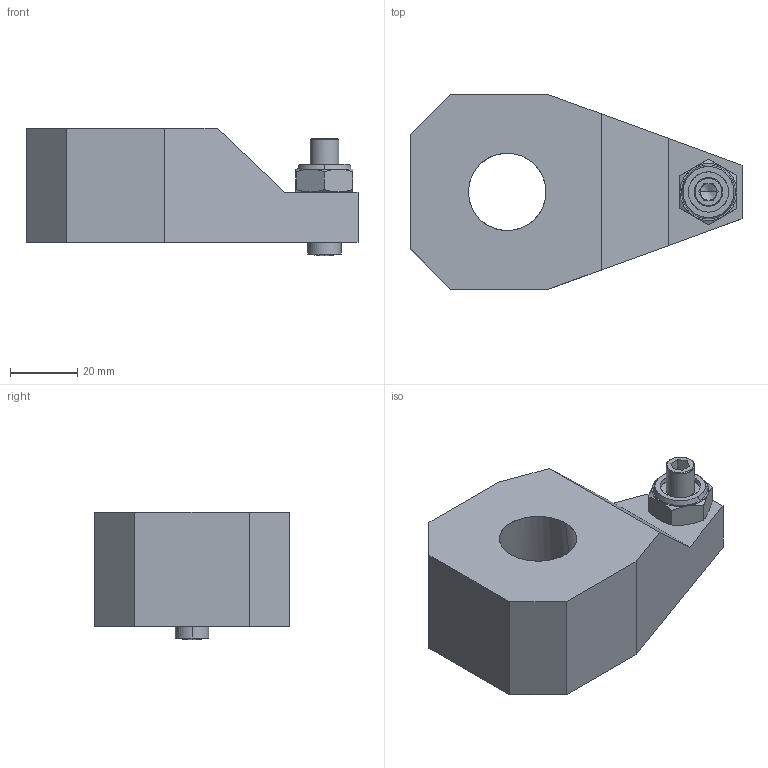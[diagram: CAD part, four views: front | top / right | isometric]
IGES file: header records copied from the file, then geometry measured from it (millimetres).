
Start section: Comment
Global section: file name: jsp50_clamparm.igs; native system:  By Spatial Corp.; preprocessor: XPlus GENERIC/IGES 3.0; author: Author; organization: Title; date: 20080526.131427; units: millimetre
Bounding box: 99 x 58 x 38 mm (x, y, z)
Surface area: 20807.6 mm2 (no closed solid volume)
Topology: 0 solids, 0 shells, 82 faces, 384 edges, 378 vertices
Faces by surface type: bspline 82
